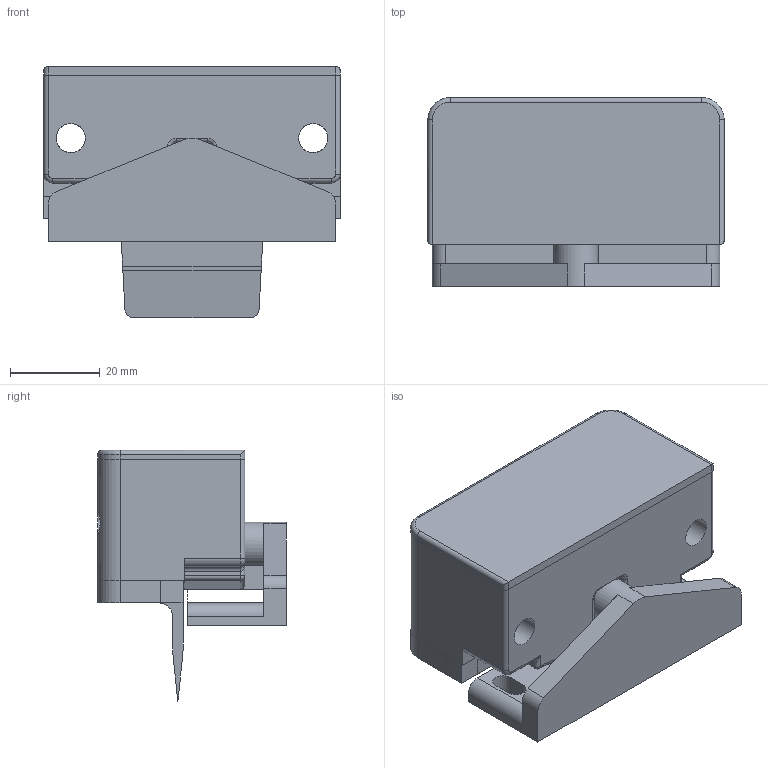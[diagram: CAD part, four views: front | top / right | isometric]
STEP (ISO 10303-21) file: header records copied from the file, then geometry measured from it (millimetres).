
FILE_DESCRIPTION (( 'STEP AP214' ), '1' );
FILE_NAME ('L19171.step', '2024-12-03T16:23:35', ( '' ), ( '' ), 'SwSTEP 2.0', 'SolidWorks 2023', '' );
FILE_SCHEMA (( 'AUTOMOTIVE_DESIGN' ));
Length unit declared in the file: millimetre
Products named in the file (1): L19171
Bounding box: 66 x 42 x 56 mm (x, y, z)
Surface area: 25387.6 mm2 (no closed solid volume)
Topology: 0 solids, 5 shells, 117 faces, 351 edges, 227 vertices
Faces by surface type: cylinder 54, plane 53, torus 6, bspline 2, sphere 2
Full cylindrical faces by diameter (mm): 6.5 x6
Entity records: 4152 total; most frequent: CARTESIAN_POINT 1107, DIRECTION 639, ORIENTED_EDGE 593, EDGE_CURVE 330, AXIS2_PLACEMENT_3D 219, VERTEX_POINT 219, VECTOR 201, LINE 201
